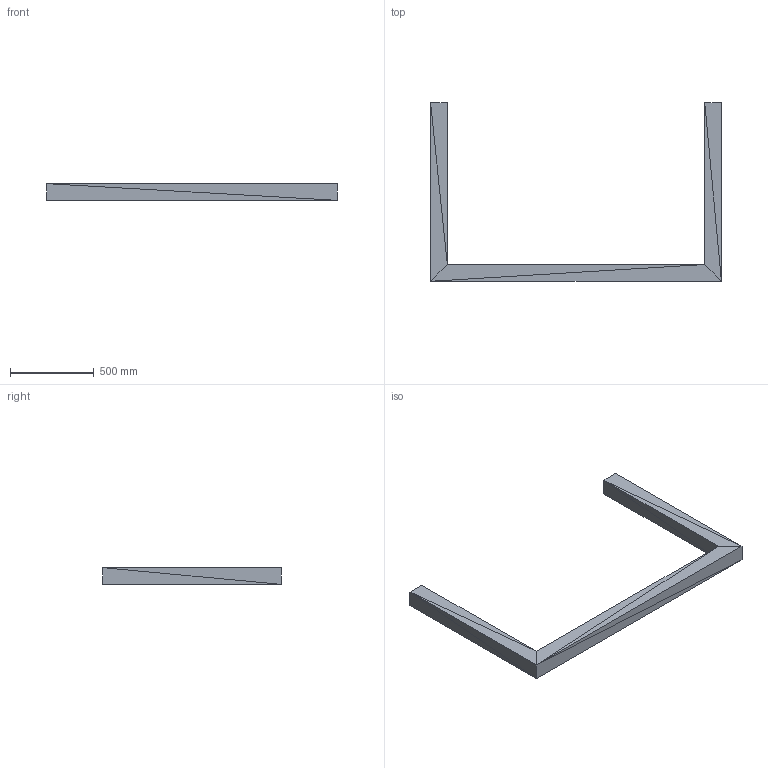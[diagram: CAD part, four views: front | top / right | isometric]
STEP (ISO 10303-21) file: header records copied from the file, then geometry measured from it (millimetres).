
FILE_DESCRIPTION(/* description */ (''),/* implementation_level */ '2;1');
FILE_NAME(/* name */ 'brace.step',/* time_stamp */ '2026-08-26T22:01:27+02:00',/* author */ (''),/* organization */ (''),/* preprocessor_version */ 'ST-DEVELOPER v20.1',/* originating_system */ 'Autodesk Translation Framework v15.8.0.0',/* authorisation */ '');
FILE_SCHEMA (('AUTOMOTIVE_DESIGN { 1 0 10303 214 3 1 1 }'));
Length unit declared in the file: millimetre
Products named in the file (1): 2026-08-26-22-01-03-152
Bounding box: 1734.88 x 1065.2 x 100 mm (x, y, z)
Volume: 36652843.8 mm3; surface area: 1486113.7 mm2
Topology: 1 solids, 1 shells, 28 faces, 42 edges, 16 vertices
Faces by surface type: plane 28
Entity records: 591 total; most frequent: DIRECTION 100, CARTESIAN_POINT 87, ORIENTED_EDGE 84, LINE 42, VECTOR 42, EDGE_CURVE 42, AXIS2_PLACEMENT_3D 29, FACE_OUTER_BOUND 28
